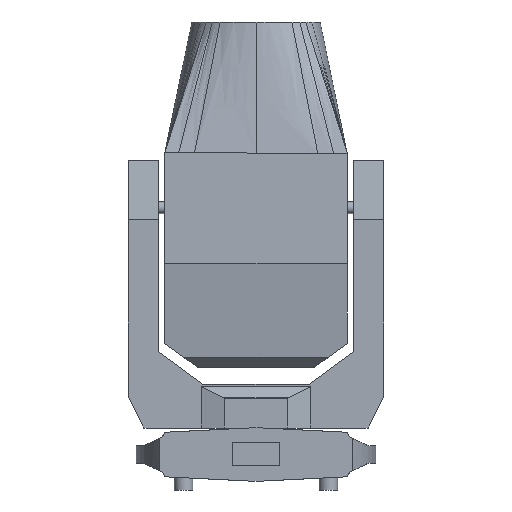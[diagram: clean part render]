
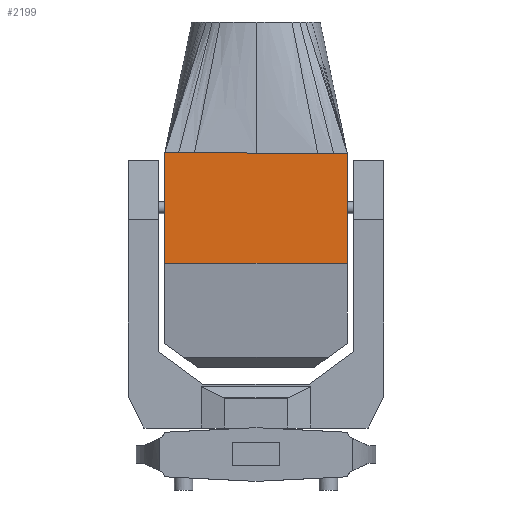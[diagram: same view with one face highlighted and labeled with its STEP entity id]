
A CAD part, front view. The second image highlights one B-rep face of the part: STEP entity #2199.
In plain terms, the highlighted planar face has unit normal (0, -1, 0.013).
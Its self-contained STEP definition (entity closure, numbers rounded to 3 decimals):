
#140=PLANE('',#2346);
#217=FACE_OUTER_BOUND('',#337,.T.);
#337=EDGE_LOOP('',(#1552,#1553,#1554,#1555));
#468=LINE('',#3083,#706);
#483=LINE('',#3112,#721);
#484=LINE('',#3115,#722);
#493=LINE('',#3131,#731);
#706=VECTOR('',#2521,10.);
#721=VECTOR('',#2538,10.);
#722=VECTOR('',#2541,10.);
#731=VECTOR('',#2552,10.);
#964=VERTEX_POINT('',#3080);
#965=VERTEX_POINT('',#3082);
#978=VERTEX_POINT('',#3110);
#979=VERTEX_POINT('',#3114);
#1187=EDGE_CURVE('',#964,#965,#468,.T.);
#1202=EDGE_CURVE('',#978,#964,#483,.T.);
#1203=EDGE_CURVE('',#965,#979,#484,.T.);
#1212=EDGE_CURVE('',#978,#979,#493,.T.);
#1552=ORIENTED_EDGE('',*,*,#1202,.F.);
#1553=ORIENTED_EDGE('',*,*,#1212,.T.);
#1554=ORIENTED_EDGE('',*,*,#1203,.F.);
#1555=ORIENTED_EDGE('',*,*,#1187,.F.);
#2199=ADVANCED_FACE('',(#217),#140,.F.);
#2346=AXIS2_PLACEMENT_3D('',#3130,#2550,#2551);
#2521=DIRECTION('',(1.,0.,-0.009));
#2538=DIRECTION('',(0.,0.013,1.));
#2541=DIRECTION('',(0.,-0.013,-1.));
#2550=DIRECTION('center_axis',(0.,1.,-0.013));
#2551=DIRECTION('ref_axis',(0.,0.013,1.));
#2552=DIRECTION('',(1.,0.,0.));
#3080=CARTESIAN_POINT('',(-154.609,-136.988,550.257));
#3082=CARTESIAN_POINT('',(154.609,-137.027,547.351));
#3083=CARTESIAN_POINT('',(1.201,-137.008,548.793));
#3110=CARTESIAN_POINT('',(-154.609,-139.472,362.158));
#3112=CARTESIAN_POINT('',(-154.609,-140.351,295.522));
#3114=CARTESIAN_POINT('',(154.609,-139.472,362.158));
#3115=CARTESIAN_POINT('',(154.609,-138.237,455.657));
#3130=CARTESIAN_POINT('Origin',(0.,-139.472,362.158));
#3131=CARTESIAN_POINT('',(0.,-139.472,362.158));
